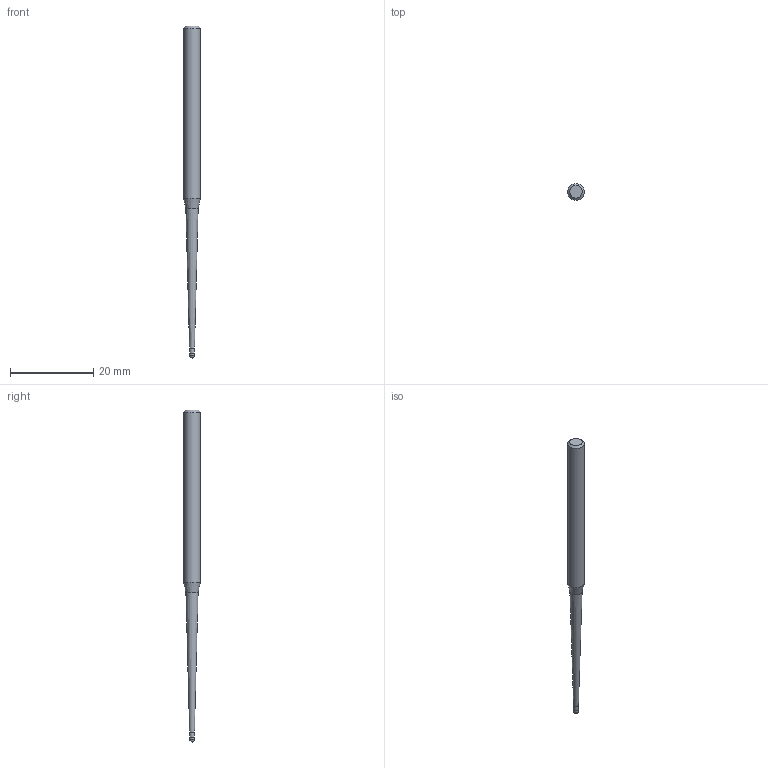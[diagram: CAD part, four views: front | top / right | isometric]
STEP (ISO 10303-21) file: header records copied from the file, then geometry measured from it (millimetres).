
FILE_DESCRIPTION((''),'2;1');
FILE_NAME('C:\Users\nsx150\AppData\Local\Temp\Mastercam 2021\SNAKH10GOD\TEMP.step','2021-10-21T13:32:38',(''),(''),'STEP Write','Mastercam 2021 ... CNC Software, Inc.','');
FILE_SCHEMA(('AUTOMOTIVE_DESIGN'));
Length unit declared in the file: millimetre
Products named in the file (1): None
Bounding box: 4 x 4 x 80 mm (x, y, z)
Volume: 666.9 mm3; surface area: 788.2 mm2
Topology: 2 solids, 2 shells, 10 faces, 16 edges, 9 vertices
Faces by surface type: plane 3, cylinder 3, cone 3, sphere 1
Full cylindrical faces by diameter (mm): 1.185 x1, 1.2 x1, 4 x1
Entity records: 232 total; most frequent: DIRECTION 40, CARTESIAN_POINT 28, AXIS2_PLACEMENT_3D 20, ORIENTED_EDGE 16, EDGE_LOOP 16, STYLED_ITEM 13, ADVANCED_FACE 10, FACE_BOUND 9
